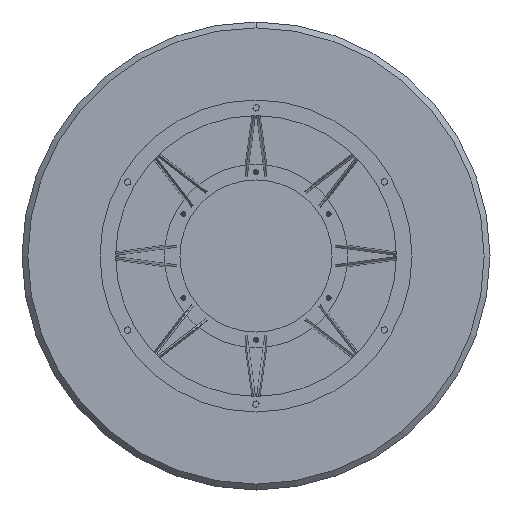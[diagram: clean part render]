
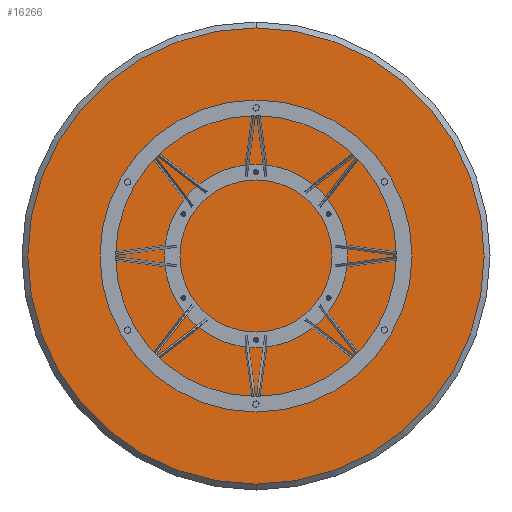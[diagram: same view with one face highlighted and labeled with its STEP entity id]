
A CAD part, front view. The second image highlights one B-rep face of the part: STEP entity #16266.
In plain terms, the highlighted planar face has unit normal (0, -1, 0).
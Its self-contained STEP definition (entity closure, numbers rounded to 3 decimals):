
#17 = CIRCLE ( 'NONE', #16738, 5. ) ;
#381 = ORIENTED_EDGE ( 'NONE', *, *, #15755, .F. ) ;
#398 = DIRECTION ( 'NONE',  ( 0., 0., -1. ) ) ;
#947 = VERTEX_POINT ( 'NONE', #2847 ) ;
#1186 = CARTESIAN_POINT ( 'NONE',  ( 0., 0., 585. ) ) ;
#1248 = FACE_BOUND ( 'NONE', #8383, .T. ) ;
#1267 = ORIENTED_EDGE ( 'NONE', *, *, #10601, .F. ) ;
#1323 = VERTEX_POINT ( 'NONE', #14389 ) ;
#1326 = PLANE ( 'NONE',  #4410 ) ;
#1425 = CIRCLE ( 'NONE', #16229, 5. ) ;
#1437 = CARTESIAN_POINT ( 'NONE',  ( 0., 0., 215. ) ) ;
#1881 = DIRECTION ( 'NONE',  ( 0., -1., 0. ) ) ;
#2217 = EDGE_LOOP ( 'NONE', ( #7827, #15519 ) ) ;
#2330 = ORIENTED_EDGE ( 'NONE', *, *, #14360, .F. ) ;
#2449 = CARTESIAN_POINT ( 'NONE',  ( -126.374, 0., -173.939 ) ) ;
#2645 = DIRECTION ( 'NONE',  ( 0., -1., 0. ) ) ;
#2793 = CIRCLE ( 'NONE', #4998, 5. ) ;
#2847 = CARTESIAN_POINT ( 'NONE',  ( -204.477, 0., 71.439 ) ) ;
#2853 = ORIENTED_EDGE ( 'NONE', *, *, #3385, .F. ) ;
#2885 = DIRECTION ( 'NONE',  ( 0., -1., 0. ) ) ;
#3385 = EDGE_CURVE ( 'NONE', #11734, #5839, #16852, .T. ) ;
#3417 = AXIS2_PLACEMENT_3D ( 'NONE', #8373, #15226, #7349 ) ;
#3531 = VERTEX_POINT ( 'NONE', #14103 ) ;
#3667 = CARTESIAN_POINT ( 'NONE',  ( -204.477, 0., 66.439 ) ) ;
#3730 = DIRECTION ( 'NONE',  ( 0., 0., 1. ) ) ;
#4103 = CARTESIAN_POINT ( 'NONE',  ( -126.374, 0., -173.939 ) ) ;
#4192 = DIRECTION ( 'NONE',  ( 0., 0., -1. ) ) ;
#4219 = EDGE_CURVE ( 'NONE', #15622, #1323, #12460, .T. ) ;
#4317 = VERTEX_POINT ( 'NONE', #9690 ) ;
#4410 = AXIS2_PLACEMENT_3D ( 'NONE', #6564, #14028, #6310 ) ;
#4810 = CIRCLE ( 'NONE', #14362, 5. ) ;
#4837 = CARTESIAN_POINT ( 'NONE',  ( 0., 0., 220. ) ) ;
#4845 = VERTEX_POINT ( 'NONE', #6738 ) ;
#4998 = AXIS2_PLACEMENT_3D ( 'NONE', #10698, #13291, #14459 ) ;
#5711 = DIRECTION ( 'NONE',  ( 0., -1., 0. ) ) ;
#5731 = AXIS2_PLACEMENT_3D ( 'NONE', #13682, #2885, #398 ) ;
#5839 = VERTEX_POINT ( 'NONE', #15547 ) ;
#6310 = DIRECTION ( 'NONE',  ( 0., 0., 1. ) ) ;
#6316 = CIRCLE ( 'NONE', #15899, 585. ) ;
#6329 = CIRCLE ( 'NONE', #15915, 5. ) ;
#6564 = CARTESIAN_POINT ( 'NONE',  ( 0., 0., 0. ) ) ;
#6635 = DIRECTION ( 'NONE',  ( 0., 0., -1. ) ) ;
#6656 = VERTEX_POINT ( 'NONE', #9985 ) ;
#6738 = CARTESIAN_POINT ( 'NONE',  ( 204.477, 0., 71.439 ) ) ;
#6857 = EDGE_CURVE ( 'NONE', #947, #8802, #9774, .T. ) ;
#6953 = EDGE_CURVE ( 'NONE', #5839, #11734, #15342, .T. ) ;
#7081 = VERTEX_POINT ( 'NONE', #13677 ) ;
#7102 = EDGE_CURVE ( 'NONE', #1323, #15622, #6316, .T. ) ;
#7150 = AXIS2_PLACEMENT_3D ( 'NONE', #12074, #5711, #8537 ) ;
#7258 = CARTESIAN_POINT ( 'NONE',  ( 126.374, 0., -178.939 ) ) ;
#7349 = DIRECTION ( 'NONE',  ( 0., 0., -1. ) ) ;
#7608 = FACE_BOUND ( 'NONE', #11308, .T. ) ;
#7644 = CARTESIAN_POINT ( 'NONE',  ( 204.477, 0., 66.439 ) ) ;
#7703 = DIRECTION ( 'NONE',  ( 0., 0., -1. ) ) ;
#7827 = ORIENTED_EDGE ( 'NONE', *, *, #9683, .F. ) ;
#8185 = CIRCLE ( 'NONE', #5731, 5. ) ;
#8361 = ORIENTED_EDGE ( 'NONE', *, *, #6857, .F. ) ;
#8373 = CARTESIAN_POINT ( 'NONE',  ( 126.374, 0., -173.939 ) ) ;
#8383 = EDGE_LOOP ( 'NONE', ( #2330, #16098 ) ) ;
#8445 = EDGE_CURVE ( 'NONE', #4845, #3531, #6329, .T. ) ;
#8537 = DIRECTION ( 'NONE',  ( 0., 0., -1. ) ) ;
#8678 = DIRECTION ( 'NONE',  ( 0., -1., 0. ) ) ;
#8802 = VERTEX_POINT ( 'NONE', #11478 ) ;
#8887 = AXIS2_PLACEMENT_3D ( 'NONE', #16212, #1881, #14919 ) ;
#8901 = DIRECTION ( 'NONE',  ( 0., -1., 0. ) ) ;
#9656 = EDGE_CURVE ( 'NONE', #12323, #4317, #2793, .T. ) ;
#9683 = EDGE_CURVE ( 'NONE', #4317, #12323, #1425, .T. ) ;
#9690 = CARTESIAN_POINT ( 'NONE',  ( 0., 0., 210. ) ) ;
#9774 = CIRCLE ( 'NONE', #10318, 5. ) ;
#9776 = EDGE_CURVE ( 'NONE', #7081, #6656, #14026, .T. ) ;
#9985 = CARTESIAN_POINT ( 'NONE',  ( -126.374, 0., -178.939 ) ) ;
#10011 = ORIENTED_EDGE ( 'NONE', *, *, #4219, .T. ) ;
#10318 = AXIS2_PLACEMENT_3D ( 'NONE', #11871, #15806, #6635 ) ;
#10413 = FACE_BOUND ( 'NONE', #2217, .T. ) ;
#10528 = DIRECTION ( 'NONE',  ( 0., -1., 0. ) ) ;
#10568 = ORIENTED_EDGE ( 'NONE', *, *, #7102, .T. ) ;
#10601 = EDGE_CURVE ( 'NONE', #3531, #4845, #8185, .T. ) ;
#10698 = CARTESIAN_POINT ( 'NONE',  ( 0., 0., 215. ) ) ;
#11235 = DIRECTION ( 'NONE',  ( 0., -1., 0. ) ) ;
#11308 = EDGE_LOOP ( 'NONE', ( #1267, #12502 ) ) ;
#11478 = CARTESIAN_POINT ( 'NONE',  ( -204.477, 0., 61.439 ) ) ;
#11734 = VERTEX_POINT ( 'NONE', #7258 ) ;
#11844 = AXIS2_PLACEMENT_3D ( 'NONE', #4103, #10528, #4192 ) ;
#11863 = EDGE_LOOP ( 'NONE', ( #10011, #10568 ) ) ;
#11871 = CARTESIAN_POINT ( 'NONE',  ( -204.477, 0., 66.439 ) ) ;
#12008 = DIRECTION ( 'NONE',  ( 0., 0., -1. ) ) ;
#12074 = CARTESIAN_POINT ( 'NONE',  ( 126.374, 0., -173.939 ) ) ;
#12323 = VERTEX_POINT ( 'NONE', #4837 ) ;
#12460 = CIRCLE ( 'NONE', #8887, 585. ) ;
#12502 = ORIENTED_EDGE ( 'NONE', *, *, #8445, .F. ) ;
#12530 = DIRECTION ( 'NONE',  ( 0., 0., -1. ) ) ;
#12864 = EDGE_LOOP ( 'NONE', ( #2853, #15997 ) ) ;
#12930 = FACE_BOUND ( 'NONE', #13595, .T. ) ;
#13092 = FACE_BOUND ( 'NONE', #12864, .T. ) ;
#13291 = DIRECTION ( 'NONE',  ( 0., -1., 0. ) ) ;
#13595 = EDGE_LOOP ( 'NONE', ( #381, #8361 ) ) ;
#13677 = CARTESIAN_POINT ( 'NONE',  ( -126.374, 0., -168.939 ) ) ;
#13682 = CARTESIAN_POINT ( 'NONE',  ( 204.477, 0., 66.439 ) ) ;
#13840 = DIRECTION ( 'NONE',  ( 0., -1., 0. ) ) ;
#14026 = CIRCLE ( 'NONE', #11844, 5. ) ;
#14028 = DIRECTION ( 'NONE',  ( 0., 1., 0. ) ) ;
#14103 = CARTESIAN_POINT ( 'NONE',  ( 204.477, 0., 61.439 ) ) ;
#14360 = EDGE_CURVE ( 'NONE', #6656, #7081, #4810, .T. ) ;
#14362 = AXIS2_PLACEMENT_3D ( 'NONE', #2449, #11235, #12530 ) ;
#14389 = CARTESIAN_POINT ( 'NONE',  ( 0., 0., -585. ) ) ;
#14459 = DIRECTION ( 'NONE',  ( 0., 0., -1. ) ) ;
#14919 = DIRECTION ( 'NONE',  ( 0., 0., 1. ) ) ;
#15049 = CARTESIAN_POINT ( 'NONE',  ( 0., 0., 0. ) ) ;
#15226 = DIRECTION ( 'NONE',  ( 0., -1., 0. ) ) ;
#15342 = CIRCLE ( 'NONE', #7150, 5. ) ;
#15352 = DIRECTION ( 'NONE',  ( 0., 0., -1. ) ) ;
#15519 = ORIENTED_EDGE ( 'NONE', *, *, #9656, .F. ) ;
#15547 = CARTESIAN_POINT ( 'NONE',  ( 126.374, 0., -168.939 ) ) ;
#15622 = VERTEX_POINT ( 'NONE', #1186 ) ;
#15649 = FACE_OUTER_BOUND ( 'NONE', #11863, .T. ) ;
#15755 = EDGE_CURVE ( 'NONE', #8802, #947, #17, .T. ) ;
#15806 = DIRECTION ( 'NONE',  ( 0., -1., 0. ) ) ;
#15899 = AXIS2_PLACEMENT_3D ( 'NONE', #15049, #13840, #3730 ) ;
#15915 = AXIS2_PLACEMENT_3D ( 'NONE', #7644, #8678, #15352 ) ;
#15997 = ORIENTED_EDGE ( 'NONE', *, *, #6953, .F. ) ;
#16098 = ORIENTED_EDGE ( 'NONE', *, *, #9776, .F. ) ;
#16212 = CARTESIAN_POINT ( 'NONE',  ( 0., 0., 0. ) ) ;
#16229 = AXIS2_PLACEMENT_3D ( 'NONE', #1437, #2645, #12008 ) ;
#16266 = ADVANCED_FACE ( 'NONE', ( #10413, #7608, #13092, #1248, #12930, #15649 ), #1326, .F. ) ;
#16738 = AXIS2_PLACEMENT_3D ( 'NONE', #3667, #8901, #7703 ) ;
#16852 = CIRCLE ( 'NONE', #3417, 5. ) ;
